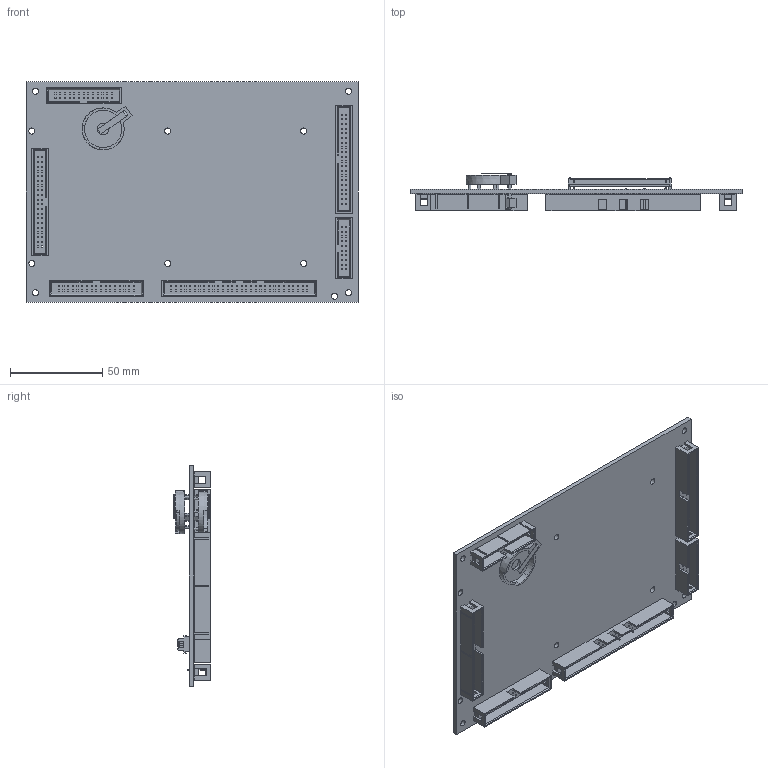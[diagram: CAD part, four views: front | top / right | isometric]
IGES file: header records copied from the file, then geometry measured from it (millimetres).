
Start section:  PTC IGES file: cu_ni-9683.igs
Global section: file name: cu_ni-9683.igs; native system: Pro/ENGINEER by Parametric Technology Corporation; preprocessor: 2011490; author: dkendric; organization: Unknown; date: 20120816.100650; units: inch
Bounding box: 179.83 x 20.02 x 119.38 mm (x, y, z)
Surface area: 67609.7 mm2 (no closed solid volume)
Topology: 0 solids, 0 shells, 1817 faces, 10678 edges, 10678 vertices
Faces by surface type: bspline 1691, revolution 126
